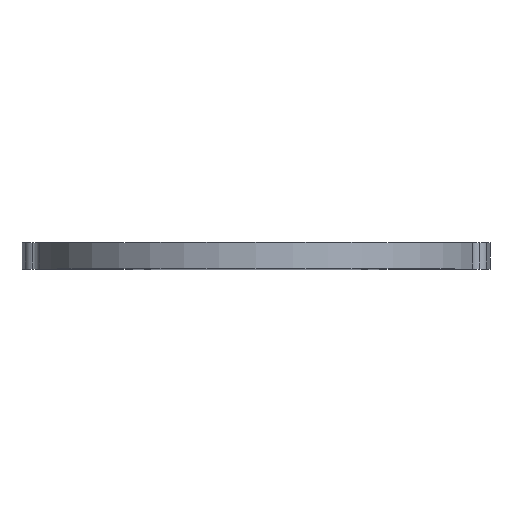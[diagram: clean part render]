
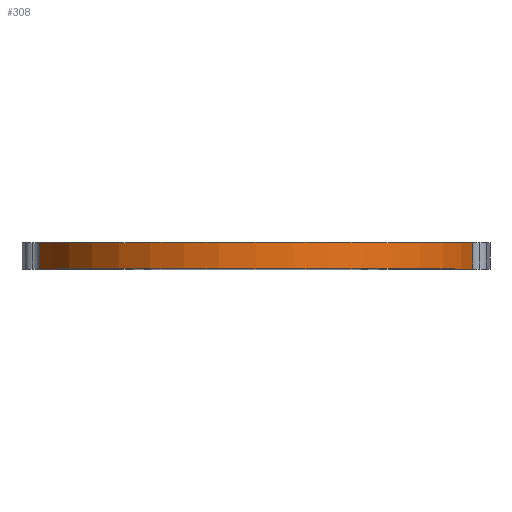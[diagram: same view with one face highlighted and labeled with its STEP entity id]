
A CAD part, top view. The second image highlights one B-rep face of the part: STEP entity #308.
In plain terms, the highlighted cylindrical face has radius 107.95 mm (diameter 215.9 mm), a partial arc.
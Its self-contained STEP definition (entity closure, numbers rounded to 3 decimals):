
#8 = EDGE_LOOP ( 'NONE', ( #92, #1415, #77, #1167 ) ) ;
#40 = DIRECTION ( 'NONE',  ( 0., 0., -1. ) ) ;
#77 = ORIENTED_EDGE ( 'NONE', *, *, #1410, .F. ) ;
#92 = ORIENTED_EDGE ( 'NONE', *, *, #711, .T. ) ;
#167 = CARTESIAN_POINT ( 'NONE',  ( 104.514, 12.7, 27.019 ) ) ;
#261 = DIRECTION ( 'NONE',  ( 0., -1., 0. ) ) ;
#284 = VERTEX_POINT ( 'NONE', #1344 ) ;
#287 = DIRECTION ( 'NONE',  ( 0., 1., 0. ) ) ;
#308 = ADVANCED_FACE ( 'NONE', ( #489 ), #1120, .T. ) ;
#340 = CARTESIAN_POINT ( 'NONE',  ( 0., 12.7, 0. ) ) ;
#401 = CARTESIAN_POINT ( 'NONE',  ( -104.514, 0., 27.019 ) ) ;
#425 = AXIS2_PLACEMENT_3D ( 'NONE', #926, #261, #1037 ) ;
#458 = VERTEX_POINT ( 'NONE', #893 ) ;
#480 = VECTOR ( 'NONE', #936, 1000. ) ;
#489 = FACE_OUTER_BOUND ( 'NONE', #8, .T. ) ;
#490 = VERTEX_POINT ( 'NONE', #674 ) ;
#613 = EDGE_CURVE ( 'NONE', #490, #1315, #751, .T. ) ;
#623 = CARTESIAN_POINT ( 'NONE',  ( 0., 0., 0. ) ) ;
#673 = AXIS2_PLACEMENT_3D ( 'NONE', #623, #287, #40 ) ;
#674 = CARTESIAN_POINT ( 'NONE',  ( -104.514, 12.7, 27.019 ) ) ;
#711 = EDGE_CURVE ( 'NONE', #1315, #458, #1011, .T. ) ;
#751 = LINE ( 'NONE', #1368, #480 ) ;
#766 = DIRECTION ( 'NONE',  ( 0., 0., -1. ) ) ;
#814 = EDGE_CURVE ( 'NONE', #458, #284, #889, .T. ) ;
#837 = DIRECTION ( 'NONE',  ( 0., 1., 0. ) ) ;
#889 = LINE ( 'NONE', #167, #1314 ) ;
#893 = CARTESIAN_POINT ( 'NONE',  ( 104.514, 0., 27.019 ) ) ;
#926 = CARTESIAN_POINT ( 'NONE',  ( 0., 12.7, 0. ) ) ;
#936 = DIRECTION ( 'NONE',  ( 0., -1., 0. ) ) ;
#1011 = CIRCLE ( 'NONE', #673, 107.95 ) ;
#1037 = DIRECTION ( 'NONE',  ( 0., 0., -1. ) ) ;
#1058 = AXIS2_PLACEMENT_3D ( 'NONE', #340, #1219, #766 ) ;
#1120 = CYLINDRICAL_SURFACE ( 'NONE', #425, 107.95 ) ;
#1167 = ORIENTED_EDGE ( 'NONE', *, *, #613, .T. ) ;
#1219 = DIRECTION ( 'NONE',  ( 0., 1., 0. ) ) ;
#1314 = VECTOR ( 'NONE', #837, 1000. ) ;
#1315 = VERTEX_POINT ( 'NONE', #401 ) ;
#1330 = CIRCLE ( 'NONE', #1058, 107.95 ) ;
#1344 = CARTESIAN_POINT ( 'NONE',  ( 104.514, 12.7, 27.019 ) ) ;
#1368 = CARTESIAN_POINT ( 'NONE',  ( -104.514, 12.7, 27.019 ) ) ;
#1410 = EDGE_CURVE ( 'NONE', #490, #284, #1330, .T. ) ;
#1415 = ORIENTED_EDGE ( 'NONE', *, *, #814, .T. ) ;
